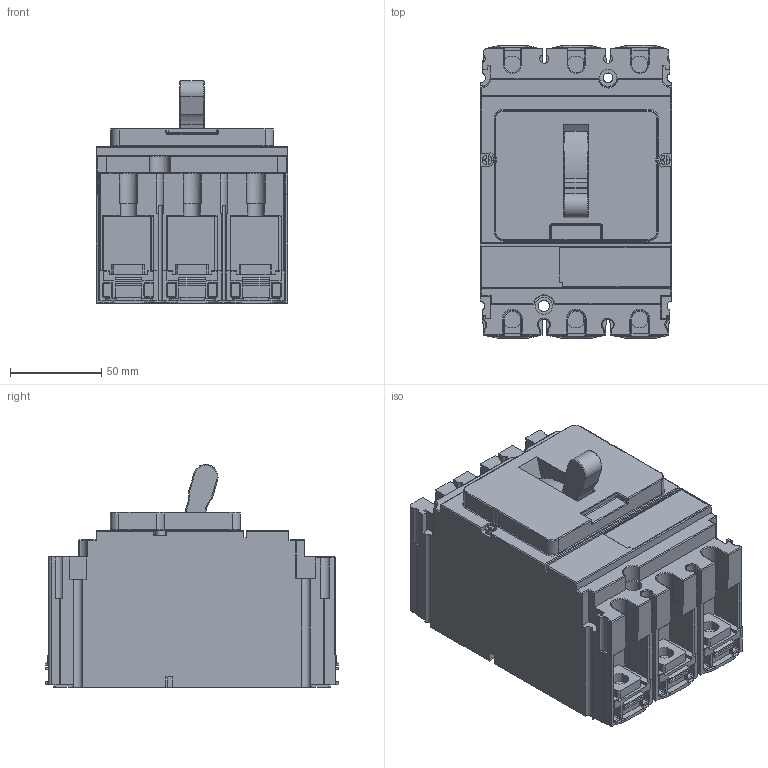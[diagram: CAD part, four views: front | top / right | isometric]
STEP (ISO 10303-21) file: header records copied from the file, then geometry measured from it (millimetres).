
FILE_DESCRIPTION((''),'2;1');
FILE_NAME('C25V36E250_3D-SIMPLIFIED_ASM','2020-12-14T14:33:08',('USER'),('Schneider-Electric'),'CREO PARAMETRIC BY PTC INC, 2018300','CREO PARAMETRIC BY PTC INC, 2018300','');
FILE_SCHEMA(('CONFIG_CONTROL_DESIGN'));
Length unit declared in the file: millimetre
Products named in the file (2): PRT0001; C25V36E250_3D-SIMPLIFIED_ASM
Assembly tree (1 placements, depth 2):
  C25V36E250_3D-SIMPLIFIED_ASM
    PRT0001
Bounding box: 104.92 x 161.24 x 122.4 mm (x, y, z)
Volume: 1262234.9 mm3; surface area: 124452.5 mm2
Topology: 1 solids, 1 shells, 1288 faces, 3502 edges, 2241 vertices
Faces by surface type: plane 690, cylinder 423, torus 105, bspline 34, extrusion 28, sphere 8
Entity records: 43491 total; most frequent: CARTESIAN_POINT 10917, ORIENTED_EDGE 6976, DIRECTION 6608, EDGE_CURVE 3488, VECTOR 2324, LINE 2296, VERTEX_POINT 2241, AXIS2_PLACEMENT_3D 2142
